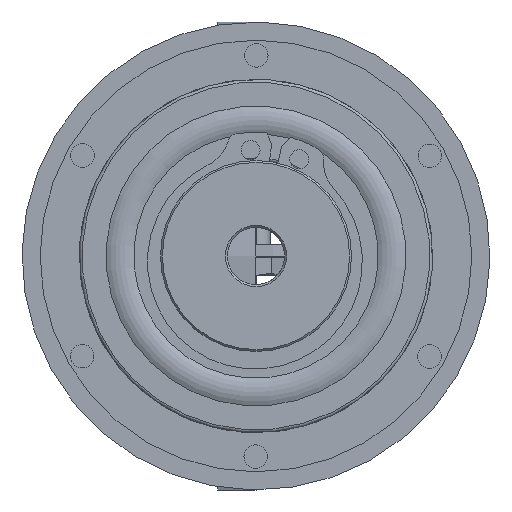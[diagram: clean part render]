
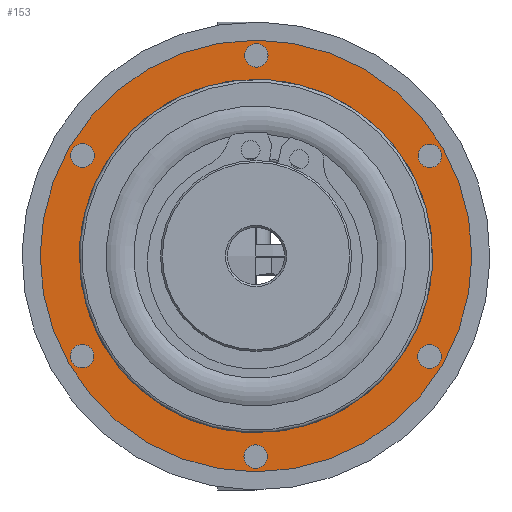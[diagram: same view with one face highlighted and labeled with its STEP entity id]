
A CAD part, left-side view. The second image highlights one B-rep face of the part: STEP entity #153.
In plain terms, the highlighted planar face has unit normal (-1, 0, 0).
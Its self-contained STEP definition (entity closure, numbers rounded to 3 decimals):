
#153 = ADVANCED_FACE( '', ( #262, #263, #264, #265, #266, #267, #268, #269 ), #270, .T. );
#262 = FACE_OUTER_BOUND( '', #404, .T. );
#263 = FACE_BOUND( '', #405, .T. );
#264 = FACE_BOUND( '', #406, .T. );
#265 = FACE_BOUND( '', #407, .T. );
#266 = FACE_BOUND( '', #408, .T. );
#267 = FACE_BOUND( '', #409, .T. );
#268 = FACE_BOUND( '', #410, .T. );
#269 = FACE_BOUND( '', #411, .T. );
#270 = PLANE( '', #412 );
#404 = EDGE_LOOP( '', ( #676 ) );
#405 = EDGE_LOOP( '', ( #677 ) );
#406 = EDGE_LOOP( '', ( #678 ) );
#407 = EDGE_LOOP( '', ( #679 ) );
#408 = EDGE_LOOP( '', ( #680 ) );
#409 = EDGE_LOOP( '', ( #681 ) );
#410 = EDGE_LOOP( '', ( #682 ) );
#411 = EDGE_LOOP( '', ( #683 ) );
#412 = AXIS2_PLACEMENT_3D( '', #684, #685, #686 );
#676 = ORIENTED_EDGE( '', *, *, #1143, .T. );
#677 = ORIENTED_EDGE( '', *, *, #1130, .T. );
#678 = ORIENTED_EDGE( '', *, *, #1144, .T. );
#679 = ORIENTED_EDGE( '', *, *, #1145, .T. );
#680 = ORIENTED_EDGE( '', *, *, #1146, .T. );
#681 = ORIENTED_EDGE( '', *, *, #1147, .T. );
#682 = ORIENTED_EDGE( '', *, *, #1133, .T. );
#683 = ORIENTED_EDGE( '', *, *, #1148, .F. );
#684 = CARTESIAN_POINT( '', ( 0., 18.5, 0. ) );
#685 = DIRECTION( '', ( -1., 0., 0. ) );
#686 = DIRECTION( '', ( 0., 0., 1. ) );
#1130 = EDGE_CURVE( '', #1545, #1545, #1546, .T. );
#1133 = EDGE_CURVE( '', #1550, #1550, #1551, .T. );
#1143 = EDGE_CURVE( '', #1565, #1565, #1566, .T. );
#1144 = EDGE_CURVE( '', #1567, #1567, #1568, .T. );
#1145 = EDGE_CURVE( '', #1569, #1569, #1570, .T. );
#1146 = EDGE_CURVE( '', #1571, #1571, #1572, .T. );
#1147 = EDGE_CURVE( '', #1573, #1573, #1574, .T. );
#1148 = EDGE_CURVE( '', #1575, #1575, #1576, .T. );
#1545 = VERTEX_POINT( '', #2464 );
#1546 = CIRCLE( '', #2465, 1.23 );
#1550 = VERTEX_POINT( '', #2469 );
#1551 = CIRCLE( '', #2470, 1.23 );
#1565 = VERTEX_POINT( '', #2484 );
#1566 = CIRCLE( '', #2485, 22.6 );
#1567 = VERTEX_POINT( '', #2486 );
#1568 = CIRCLE( '', #2487, 1.23 );
#1569 = VERTEX_POINT( '', #2488 );
#1570 = CIRCLE( '', #2489, 1.23 );
#1571 = VERTEX_POINT( '', #2490 );
#1572 = CIRCLE( '', #2491, 1.23 );
#1573 = VERTEX_POINT( '', #2492 );
#1574 = CIRCLE( '', #2493, 1.23 );
#1575 = VERTEX_POINT( '', #2494 );
#1576 = CIRCLE( '', #2495, 18.5 );
#2464 = CARTESIAN_POINT( '', ( 0., 11.565, -17.572 ) );
#2465 = AXIS2_PLACEMENT_3D( '', #2741, #2742, #2743 );
#2469 = CARTESIAN_POINT( '', ( 0., 21., 1.23 ) );
#2470 = AXIS2_PLACEMENT_3D( '', #2747, #2748, #2749 );
#2484 = CARTESIAN_POINT( '', ( 0., 0., 22.6 ) );
#2485 = AXIS2_PLACEMENT_3D( '', #2762, #2763, #2764 );
#2486 = CARTESIAN_POINT( '', ( 0., -9.435, -18.801 ) );
#2487 = AXIS2_PLACEMENT_3D( '', #2765, #2766, #2767 );
#2488 = CARTESIAN_POINT( '', ( 0., -21., -1.23 ) );
#2489 = AXIS2_PLACEMENT_3D( '', #2768, #2769, #2770 );
#2490 = CARTESIAN_POINT( '', ( 0., -11.565, 17.572 ) );
#2491 = AXIS2_PLACEMENT_3D( '', #2771, #2772, #2773 );
#2492 = CARTESIAN_POINT( '', ( 0., 9.435, 18.801 ) );
#2493 = AXIS2_PLACEMENT_3D( '', #2774, #2775, #2776 );
#2494 = CARTESIAN_POINT( '', ( 0., 0., 18.5 ) );
#2495 = AXIS2_PLACEMENT_3D( '', #2777, #2778, #2779 );
#2741 = CARTESIAN_POINT( '', ( 0., 10.5, -18.187 ) );
#2742 = DIRECTION( '', ( 1., 0., 0. ) );
#2743 = DIRECTION( '', ( 0., 0.866, 0.5 ) );
#2747 = CARTESIAN_POINT( '', ( 0., 21., 0. ) );
#2748 = DIRECTION( '', ( 1., 0., 0. ) );
#2749 = DIRECTION( '', ( 0., 0., 1. ) );
#2762 = CARTESIAN_POINT( '', ( 0., 0., 0. ) );
#2763 = DIRECTION( '', ( -1., 0., 0. ) );
#2764 = DIRECTION( '', ( 0., 0., 1. ) );
#2765 = CARTESIAN_POINT( '', ( 0., -10.5, -18.187 ) );
#2766 = DIRECTION( '', ( 1., 0., 0. ) );
#2767 = DIRECTION( '', ( 0., 0.866, -0.5 ) );
#2768 = CARTESIAN_POINT( '', ( 0., -21., 0. ) );
#2769 = DIRECTION( '', ( 1., 0., 0. ) );
#2770 = DIRECTION( '', ( 0., 0., -1. ) );
#2771 = CARTESIAN_POINT( '', ( 0., -10.5, 18.187 ) );
#2772 = DIRECTION( '', ( 1., 0., 0. ) );
#2773 = DIRECTION( '', ( 0., -0.866, -0.5 ) );
#2774 = CARTESIAN_POINT( '', ( 0., 10.5, 18.187 ) );
#2775 = DIRECTION( '', ( 1., 0., 0. ) );
#2776 = DIRECTION( '', ( 0., -0.866, 0.5 ) );
#2777 = CARTESIAN_POINT( '', ( 0., 0., 0. ) );
#2778 = DIRECTION( '', ( -1., 0., 0. ) );
#2779 = DIRECTION( '', ( 0., 0., 1. ) );
